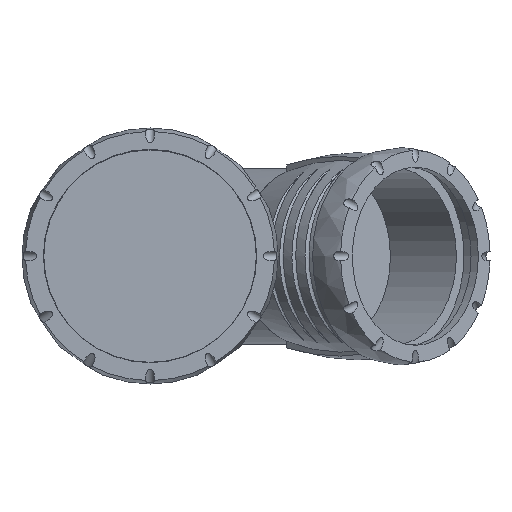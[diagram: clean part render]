
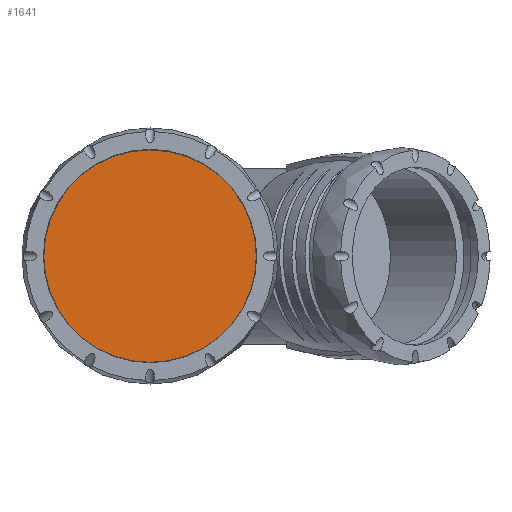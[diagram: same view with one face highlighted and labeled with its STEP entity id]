
A CAD part, top view. The second image highlights one B-rep face of the part: STEP entity #1641.
In plain terms, the highlighted planar face has unit normal (0, 0, 1).
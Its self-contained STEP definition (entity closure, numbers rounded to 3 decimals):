
#222=PLANE('',#1774);
#299=FACE_OUTER_BOUND('',#408,.T.);
#408=EDGE_LOOP('',(#1052));
#545=CIRCLE('',#1775,45.45);
#622=VERTEX_POINT('',#2397);
#799=EDGE_CURVE('',#622,#622,#545,.T.);
#1052=ORIENTED_EDGE('',*,*,#799,.T.);
#1641=ADVANCED_FACE('',(#299),#222,.T.);
#1774=AXIS2_PLACEMENT_3D('',#2396,#1974,#1975);
#1775=AXIS2_PLACEMENT_3D('',#2398,#1976,#1977);
#1974=DIRECTION('center_axis',(0.,0.,
1.));
#1975=DIRECTION('ref_axis',(0.,1.,0.));
#1976=DIRECTION('center_axis',(0.,0.,
1.));
#1977=DIRECTION('ref_axis',(0.,1.,0.));
#2396=CARTESIAN_POINT('Origin',(0.,0.,
177.5));
#2397=CARTESIAN_POINT('',(-45.45,0.,177.5));
#2398=CARTESIAN_POINT('Origin',(0.,0.,
177.5));
